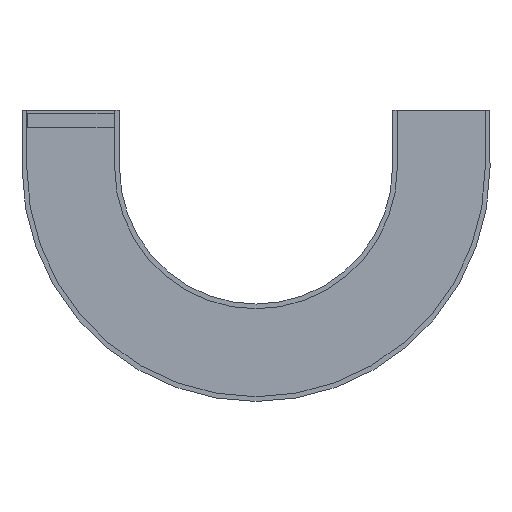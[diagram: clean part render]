
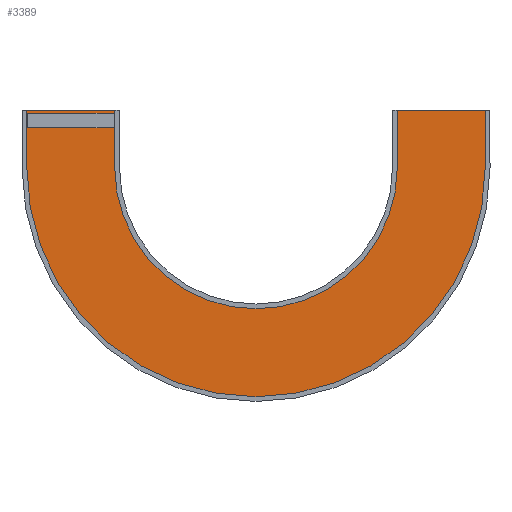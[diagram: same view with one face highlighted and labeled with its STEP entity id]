
A CAD part, front view. The second image highlights one B-rep face of the part: STEP entity #3389.
In plain terms, the highlighted planar face has unit normal (0, -1, 0).
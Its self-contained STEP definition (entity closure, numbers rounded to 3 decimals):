
#301 = LINE ( 'NONE', #2104, #302 ) ;
#302 = VECTOR ( 'NONE', #2105, 1000. ) ;
#303 = LINE ( 'NONE', #2106, #304 ) ;
#304 = VECTOR ( 'NONE', #2107, 1000. ) ;
#305 = LINE ( 'NONE', #2108, #306 ) ;
#306 = VECTOR ( 'NONE', #2109, 1000. ) ;
#307 = LINE ( 'NONE', #2110, #308 ) ;
#308 = VECTOR ( 'NONE', #2111, 1000. ) ;
#389 = CIRCLE ( 'NONE', #6814, 818.5 ) ;
#391 = CIRCLE ( 'NONE', #6816, 481.5 ) ;
#950 = DIRECTION ( 'NONE',  ( 0., 0., -1. ) ) ;
#954 = CARTESIAN_POINT ( 'NONE',  ( 650., -57.525, -200. ) ) ;
#955 = DIRECTION ( 'NONE',  ( 0., -1., 0. ) ) ;
#956 = DIRECTION ( 'NONE',  ( 0., 0., -1. ) ) ;
#1115 = CARTESIAN_POINT ( 'NONE',  ( 1131.5, -57.525, 0. ) ) ;
#1149 = CARTESIAN_POINT ( 'NONE',  ( 1131.5, -57.525, -200. ) ) ;
#1178 = CARTESIAN_POINT ( 'NONE',  ( 168.5, -57.525, -200. ) ) ;
#1207 = CARTESIAN_POINT ( 'NONE',  ( 650., -57.525, -681.5 ) ) ;
#1216 = CARTESIAN_POINT ( 'NONE',  ( 1468.5, -57.525, 0. ) ) ;
#1261 = CARTESIAN_POINT ( 'NONE',  ( 1468.5, -57.525, -200. ) ) ;
#1265 = CARTESIAN_POINT ( 'NONE',  ( 650., -57.525, -1018.5 ) ) ;
#1346 = CARTESIAN_POINT ( 'NONE',  ( 168.5, -57.525, 0. ) ) ;
#1349 = CARTESIAN_POINT ( 'NONE',  ( -168.5, -57.525, 0. ) ) ;
#1761 = CARTESIAN_POINT ( 'NONE',  ( 650., -57.525, -200. ) ) ;
#1762 = DIRECTION ( 'NONE',  ( 0., -1., 0. ) ) ;
#1763 = DIRECTION ( 'NONE',  ( 0., 0., -1. ) ) ;
#1771 = CARTESIAN_POINT ( 'NONE',  ( 650., -57.525, -200. ) ) ;
#1772 = DIRECTION ( 'NONE',  ( 0., -1., 0. ) ) ;
#1773 = DIRECTION ( 'NONE',  ( 0., 0., -1. ) ) ;
#2104 = CARTESIAN_POINT ( 'NONE',  ( 168.5, -57.525, -200. ) ) ;
#2105 = DIRECTION ( 'NONE',  ( 0., 0., 1. ) ) ;
#2106 = CARTESIAN_POINT ( 'NONE',  ( 168.5, -57.525, 0. ) ) ;
#2107 = DIRECTION ( 'NONE',  ( 1., 0., 0. ) ) ;
#2108 = CARTESIAN_POINT ( 'NONE',  ( -168.5, -57.525, -200. ) ) ;
#2109 = DIRECTION ( 'NONE',  ( 0., 0., 1. ) ) ;
#2110 = CARTESIAN_POINT ( 'NONE',  ( 1131.5, -57.525, 0. ) ) ;
#2111 = DIRECTION ( 'NONE',  ( -1., 0., 0. ) ) ;
#2200 = CARTESIAN_POINT ( 'NONE',  ( 650., -57.525, -200. ) ) ;
#2201 = DIRECTION ( 'NONE',  ( 0., -1., 0. ) ) ;
#2695 = VERTEX_POINT ( 'NONE', #4445 ) ;
#3119 = PLANE ( 'NONE',  #6453 ) ;
#3120 = CARTESIAN_POINT ( 'NONE',  ( 168.5, -57.525, -200. ) ) ;
#3121 = DIRECTION ( 'NONE',  ( 0., -1., 0. ) ) ;
#3122 = DIRECTION ( 'NONE',  ( 1., 0., 0. ) ) ;
#3389 = ADVANCED_FACE ( 'NONE', ( #5111 ), #3119, .T. ) ;
#3789 = EDGE_CURVE ( 'NONE', #4159, #4188, #4503, .T. ) ;
#3793 = EDGE_CURVE ( 'NONE', #4246, #4242, #4509, .T. ) ;
#3875 = CARTESIAN_POINT ( 'NONE',  ( 1468.5, -57.525, -200. ) ) ;
#3877 = DIRECTION ( 'NONE',  ( 0., 0., 1. ) ) ;
#3896 = CARTESIAN_POINT ( 'NONE',  ( 1131.5, -57.525, -200. ) ) ;
#3898 = DIRECTION ( 'NONE',  ( 0., 0., 1. ) ) ;
#4096 = VERTEX_POINT ( 'NONE', #1115 ) ;
#4130 = VERTEX_POINT ( 'NONE', #1149 ) ;
#4159 = VERTEX_POINT ( 'NONE', #1178 ) ;
#4188 = VERTEX_POINT ( 'NONE', #1207 ) ;
#4197 = VERTEX_POINT ( 'NONE', #1216 ) ;
#4242 = VERTEX_POINT ( 'NONE', #1261 ) ;
#4246 = VERTEX_POINT ( 'NONE', #1265 ) ;
#4327 = VERTEX_POINT ( 'NONE', #1346 ) ;
#4330 = VERTEX_POINT ( 'NONE', #1349 ) ;
#4445 = CARTESIAN_POINT ( 'NONE',  ( -168.5, -57.525, -200. ) ) ;
#4503 = CIRCLE ( 'NONE', #6682, 481.5 ) ;
#4509 = CIRCLE ( 'NONE', #6684, 818.5 ) ;
#4961 = LINE ( 'NONE', #3875, #4962 ) ;
#4962 = VECTOR ( 'NONE', #3877, 1000. ) ;
#4971 = LINE ( 'NONE', #3896, #4972 ) ;
#4972 = VECTOR ( 'NONE', #3898, 1000. ) ;
#5111 = FACE_OUTER_BOUND ( 'NONE', #7456, .T. ) ;
#6453 = AXIS2_PLACEMENT_3D ( 'NONE', #3120, #3121, #3122 ) ;
#6682 = AXIS2_PLACEMENT_3D ( 'NONE', #1761, #1762, #1763 ) ;
#6684 = AXIS2_PLACEMENT_3D ( 'NONE', #1771, #1772, #1773 ) ;
#6814 = AXIS2_PLACEMENT_3D ( 'NONE', #2200, #2201, #950 ) ;
#6816 = AXIS2_PLACEMENT_3D ( 'NONE', #954, #955, #956 ) ;
#7016 = EDGE_CURVE ( 'NONE', #4242, #4197, #4961, .T. ) ;
#7021 = EDGE_CURVE ( 'NONE', #4130, #4096, #4971, .T. ) ;
#7153 = EDGE_CURVE ( 'NONE', #4159, #4327, #301, .T. ) ;
#7154 = EDGE_CURVE ( 'NONE', #4330, #4327, #303, .T. ) ;
#7155 = EDGE_CURVE ( 'NONE', #2695, #4330, #305, .T. ) ;
#7156 = EDGE_CURVE ( 'NONE', #4197, #4096, #307, .T. ) ;
#7199 = EDGE_CURVE ( 'NONE', #2695, #4246, #389, .T. ) ;
#7201 = EDGE_CURVE ( 'NONE', #4188, #4130, #391, .T. ) ;
#7456 = EDGE_LOOP ( 'NONE', ( #7728, #7729, #7730, #7731, #7732, #7733, #7734, #7735, #7736, #7737 ) ) ;
#7728 = ORIENTED_EDGE ( 'NONE', *, *, #7154, .F. ) ;
#7729 = ORIENTED_EDGE ( 'NONE', *, *, #7155, .F. ) ;
#7730 = ORIENTED_EDGE ( 'NONE', *, *, #7199, .T. ) ;
#7731 = ORIENTED_EDGE ( 'NONE', *, *, #3793, .T. ) ;
#7732 = ORIENTED_EDGE ( 'NONE', *, *, #7016, .T. ) ;
#7733 = ORIENTED_EDGE ( 'NONE', *, *, #7156, .T. ) ;
#7734 = ORIENTED_EDGE ( 'NONE', *, *, #7021, .F. ) ;
#7735 = ORIENTED_EDGE ( 'NONE', *, *, #7201, .F. ) ;
#7736 = ORIENTED_EDGE ( 'NONE', *, *, #3789, .F. ) ;
#7737 = ORIENTED_EDGE ( 'NONE', *, *, #7153, .T. ) ;
